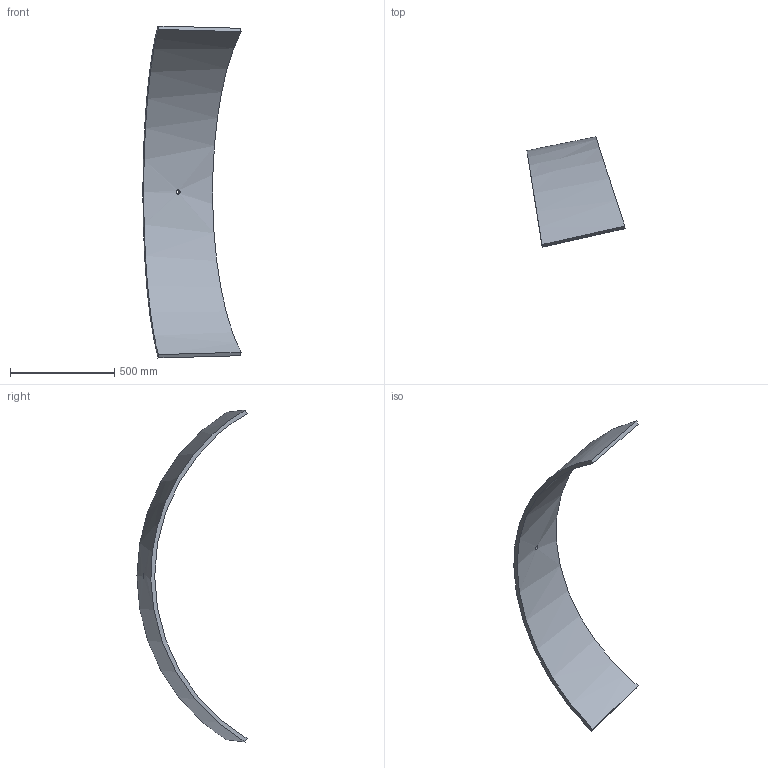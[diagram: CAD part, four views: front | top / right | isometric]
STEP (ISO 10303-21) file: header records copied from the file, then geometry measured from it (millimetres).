
FILE_DESCRIPTION (( 'STEP AP214' ), '1' );
FILE_NAME ('Section 12-B.STEP', '2025-01-09T19:43:25', ( '' ), ( '' ), 'SwSTEP 2.0', 'SolidWorks 2024', '' );
FILE_SCHEMA (( 'AUTOMOTIVE_DESIGN' ));
Length unit declared in the file: inch
Products named in the file (1): Section 12-B
Bounding box: 471.64 x 528.53 x 1594.28 mm (x, y, z)
Volume: 13030286.3 mm3; surface area: 1456618.9 mm2
Topology: 1 solids, 1 shells, 7 faces, 15 edges, 10 vertices
Faces by surface type: bspline 6, cylinder 1
Full cylindrical faces by diameter (mm): 19.447 x1
Entity records: 521 total; most frequent: CARTESIAN_POINT 384, ORIENTED_EDGE 28, EDGE_CURVE 14, B_SPLINE_CURVE_WITH_KNOTS 14, EDGE_LOOP 10, VERTEX_POINT 10, FACE_OUTER_BOUND 8, ADVANCED_FACE 7
